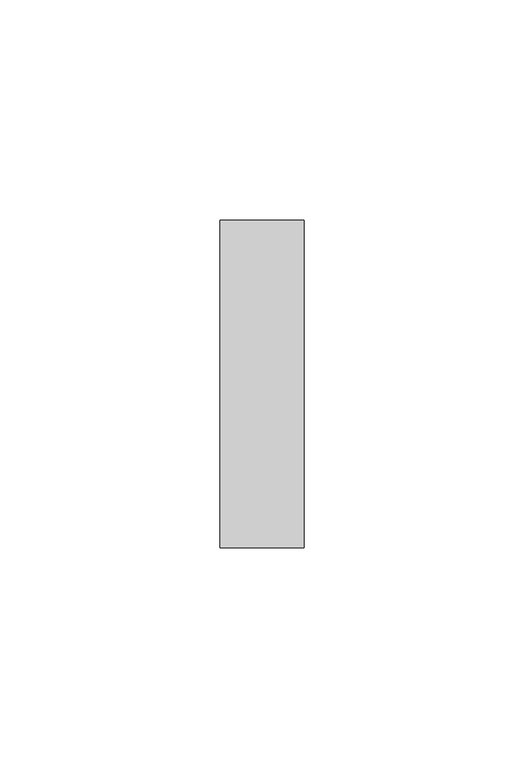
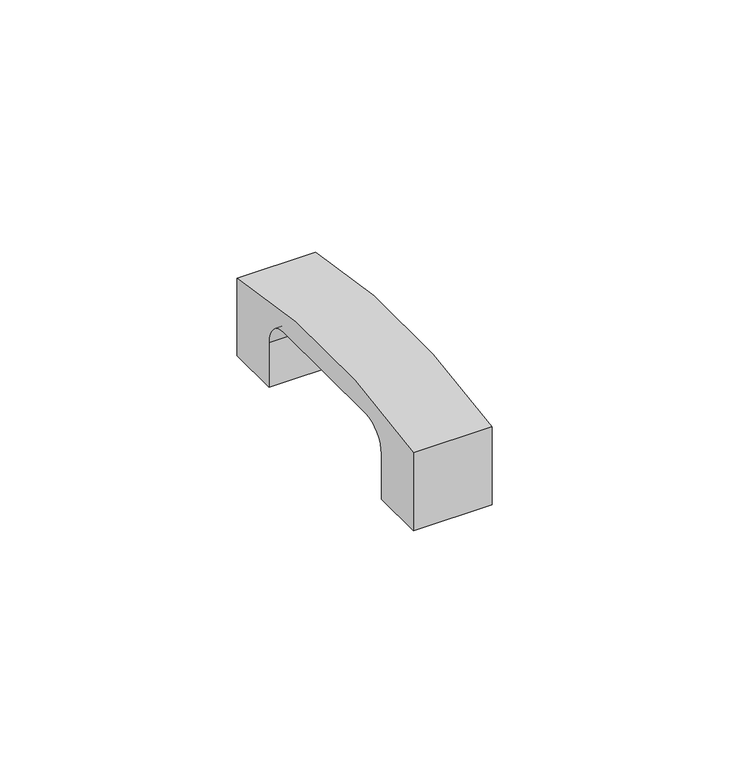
"""IFC4 building model written with IfcOpenShell, lengths in millimetres: cable carrier fitting geometry, КНС_АдаптерДляВводаКороба70×22ВКоробки_ILF_DKC : Адаптер."""

from ifc_helpers import new_model, si_unit, point, frame, frame_2d, origin, place, context, project, spatial, polyline, circle_curve, trimmed, segment, composite_curve, outline, extrude, source, transform, mapped, element, save


def cable_carrier_fitting_01e7652f(model_context):
    return source(origin(), model_context, "Body", "SweptSolid", [
        extrude(outline(composite_curve([segment(polyline([(23.75, -9.0), (23.75, 2.5)]), True, "CONTINUOUS"), segment(trimmed(circle_curve(frame_2d((17.25, 2.5)), 6.5), [point((23.75, 2.5))], [point((17.25, 9.0))], True, "CARTESIAN"), True, "CONTINUOUS"), segment(polyline([(17.25, 9.0), (-17.25, 9.0)]), True, "CONTINUOUS"), segment(trimmed(circle_curve(frame_2d((-17.25, 2.5)), 6.5), [point((-17.25, 9.0))], [point((-23.75, 2.5))], True, "CARTESIAN"), True, "CONTINUOUS"), segment(polyline([(-23.75, 2.5), (-23.75, -9.0), (-37.2, -9.0), (-37.2, 11.075394)]), True, "CONTINUOUS"), segment(trimmed(circle_curve(frame_2d((-0.5399603, -149.7465843)), 164.9474681), [point((-37.2, 11.075394))], [point((37.2, 10.8254015))], False, "CARTESIAN"), True, "CONTINUOUS"), segment(polyline([(37.2, 10.8254015), (37.2, -9.0), (23.75, -9.0)]), True, "CONTINUOUS")], self_intersect=False)), frame((-19.1, 0.0, 0.0), z_axis=(1.0, 0.0, 0.0), x_axis=(0.0, 1.0, 0.0)), (0.0, 0.0, 1.0), 19.1),
    ])


if __name__ == "__main__":
    model = new_model("IFC4")
    model_context = context("Model", 3, world=origin())
    ifc_project = project(units=[si_unit("LENGTHUNIT", "METRE", prefix="MILLI")], contexts=[model_context])
    site = spatial("IfcSite", under=ifc_project)
    building = spatial("IfcBuilding", under=site)
    placement = place(None, origin())
    cable_carrier_fitting_shape = cable_carrier_fitting_01e7652f(model_context)
    element("IfcCableCarrierFitting", 1, ObjectType="КНС_АдаптерДляВводаКороба70×22ВКоробки_ILF_DKC : Адаптер", at=placement, inside=building, context=model_context, shape_type="MappedRepresentation", body=[
        mapped(cable_carrier_fitting_shape, transform((0.0, 0.0, 0.0), x_axis=(1.0, 0.0, 0.0), y_axis=(0.0, 1.0, 0.0), z_axis=(0.0, 0.0, 1.0))),
    ])
    save(model, "model.ifc")
